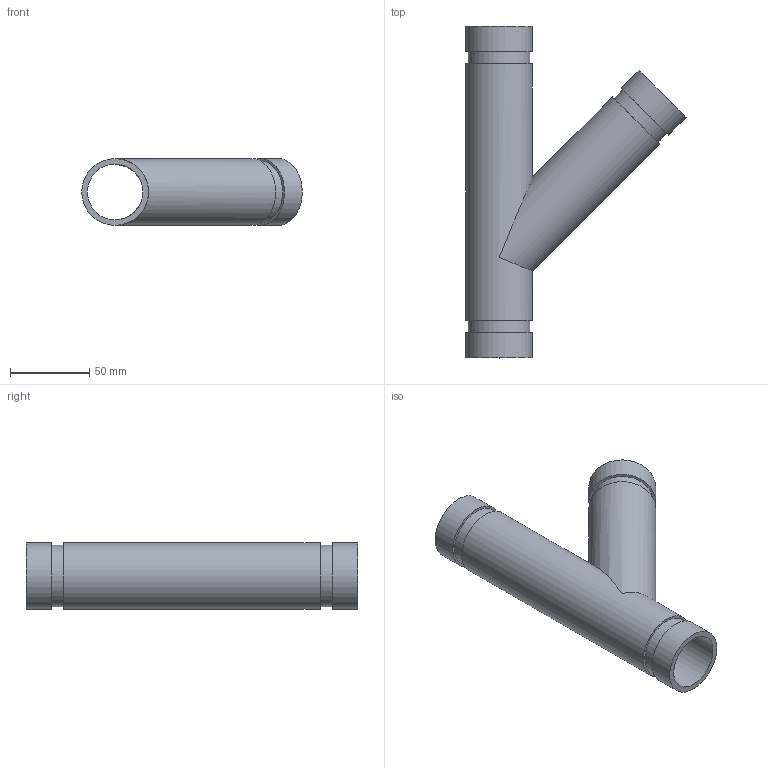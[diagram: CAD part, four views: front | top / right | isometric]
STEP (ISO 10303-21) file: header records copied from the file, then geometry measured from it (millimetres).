
FILE_DESCRIPTION(/* description */ ('VIC 45 DEG FABRICATED LATERAL No 30 SWS (OGS)','CAx-IF Rec.Pracs.---Representation and Presentation of Product Manufacturing Information (PMI)---4.0---2014-10-13'),/* implementation_level */ '2;1');
FILE_NAME(/* name */ 'C:\Users\kkamble\AppData\Roaming\Autodesk\ApplicationPlugins\Back Up\Victaulic_IPS_Lateral 45 Deg_No 30 SWS (OGS)\Victaulic_IPS_Lateral 45 Deg_No 30 SWS (OGS)_1.25 (32).stp',/* time_stamp */ '2020-09-16T22:20:22+06:00',/* author */ ('cgray'),/* organization */ ('Victaulic'),/* preprocessor_version */ 'ST-DEVELOPER v17.2',/* originating_system */ 'Autodesk Inventor 2019',/* authorisation */ '');
FILE_SCHEMA (('AP242_MANAGED_MODEL_BASED_3D_ENGINEERING_MIM_LF { 1 0 10303 442 1 1 4 }'));
Length unit declared in the file: inch
Products named in the file (1): 30 SWS-01.25
Bounding box: 139.26 x 209.55 x 42.16 mm (x, y, z)
Volume: 133512.6 mm3; surface area: 80028.6 mm2
Topology: 1 solids, 1 shells, 19 faces, 45 edges, 34 vertices
Faces by surface type: cylinder 10, plane 9
Full cylindrical faces by diameter (mm): 35.052 x2, 38.989 x3, 42.164 x5
Entity records: 748 total; most frequent: DIRECTION 145, CARTESIAN_POINT 116, ORIENTED_EDGE 90, AXIS2_PLACEMENT_3D 67, EDGE_CURVE 45, VERTEX_POINT 34, EDGE_LOOP 29, CIRCLE 27
